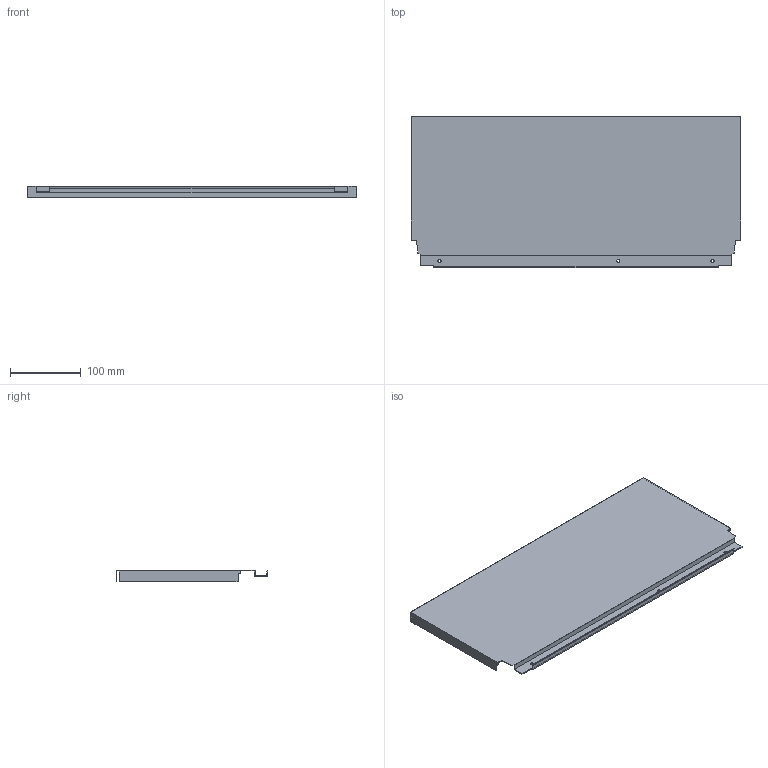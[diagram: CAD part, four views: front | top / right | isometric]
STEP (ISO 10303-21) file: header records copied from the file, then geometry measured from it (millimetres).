
FILE_DESCRIPTION (( 'STEP AP214' ), '1' );
FILE_NAME ('_DWD_XP Stahlrückwand_H214_KAB550_S16.step', '2010-07-08T13:02:48', ( 'grass' ), ( '' ), 'SwSTEP 2.0', 'SolidWorks 2010', '' );
FILE_SCHEMA (( 'AUTOMOTIVE_DESIGN' ));
Length unit declared in the file: millimetre
Products named in the file (1): _DWD_XP Stahlrückwand_H214_KAB550_S16
Bounding box: 467 x 214.58 x 16 mm (x, y, z)
Volume: 111964 mm3; surface area: 236825 mm2
Topology: 1 solids, 1 shells, 46 faces, 132 edges, 88 vertices
Faces by surface type: plane 40, cylinder 6
Entity records: 1534 total; most frequent: CARTESIAN_POINT 267, ORIENTED_EDGE 264, DIRECTION 238, EDGE_CURVE 132, LINE 120, VECTOR 120, VERTEX_POINT 88, AXIS2_PLACEMENT_3D 59
